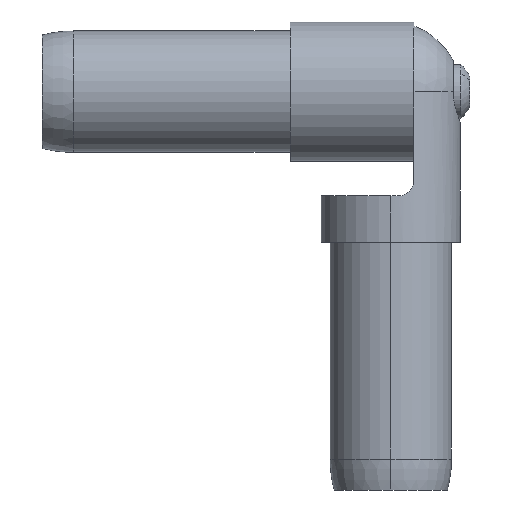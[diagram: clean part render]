
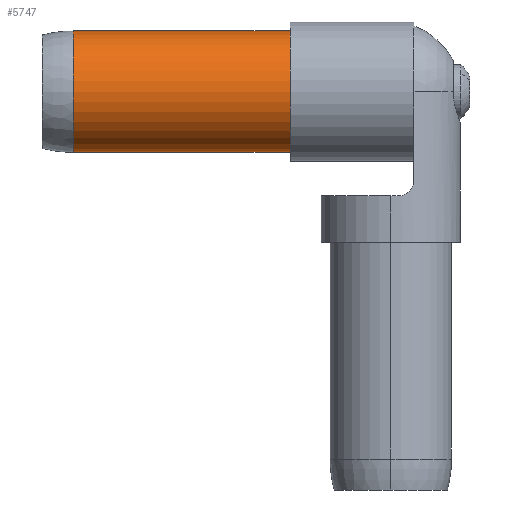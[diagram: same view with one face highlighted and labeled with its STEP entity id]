
A CAD part, front view. The second image highlights one B-rep face of the part: STEP entity #5747.
In plain terms, the highlighted cylindrical face has radius 12.446 mm (diameter 24.892 mm), a partial arc.
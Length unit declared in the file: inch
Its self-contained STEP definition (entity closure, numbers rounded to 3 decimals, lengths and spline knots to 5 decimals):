
#811 = CARTESIAN_POINT ( 'NONE',  ( -2.25, 0., 0. ) ) ;
#830 = EDGE_CURVE ( 'NONE', #13946, #8968, #4913, .T. ) ;
#949 = VERTEX_POINT ( 'NONE', #13241 ) ;
#1050 = VECTOR ( 'NONE', #10474, 39.37008 ) ;
#1188 = EDGE_LOOP ( 'NONE', ( #10237, #13859, #12593, #9070 ) ) ;
#1805 = VERTEX_POINT ( 'NONE', #12030 ) ;
#1986 = EDGE_CURVE ( 'NONE', #949, #8968, #12682, .T. ) ;
#2291 = VECTOR ( 'NONE', #7099, 39.37008 ) ;
#2576 = CARTESIAN_POINT ( 'NONE',  ( -2., 0., -0.49 ) ) ;
#3701 = FACE_OUTER_BOUND ( 'NONE', #1188, .T. ) ;
#3810 = DIRECTION ( 'NONE',  ( 0., 0., 1. ) ) ;
#4080 = AXIS2_PLACEMENT_3D ( 'NONE', #7397, #7142, #7291 ) ;
#4913 = CIRCLE ( 'NONE', #4080, 0.49 ) ;
#5438 = EDGE_CURVE ( 'NONE', #1805, #949, #8087, .T. ) ;
#5747 = ADVANCED_FACE ( 'NONE', ( #3701 ), #13504, .T. ) ;
#6671 = AXIS2_PLACEMENT_3D ( 'NONE', #811, #13654, #13198 ) ;
#7099 = DIRECTION ( 'NONE',  ( -1., 0., 0. ) ) ;
#7142 = DIRECTION ( 'NONE',  ( -1., 0., 0. ) ) ;
#7291 = DIRECTION ( 'NONE',  ( 0., 0., 1. ) ) ;
#7397 = CARTESIAN_POINT ( 'NONE',  ( -2., 0., 0. ) ) ;
#7690 = CARTESIAN_POINT ( 'NONE',  ( -2.25, 0., -0.49 ) ) ;
#7758 = CARTESIAN_POINT ( 'NONE',  ( -0.25, 0., 0. ) ) ;
#8087 = CIRCLE ( 'NONE', #10979, 0.49 ) ;
#8968 = VERTEX_POINT ( 'NONE', #11216 ) ;
#9070 = ORIENTED_EDGE ( 'NONE', *, *, #830, .F. ) ;
#9696 = EDGE_CURVE ( 'NONE', #1805, #13946, #11057, .T. ) ;
#10237 = ORIENTED_EDGE ( 'NONE', *, *, #9696, .F. ) ;
#10474 = DIRECTION ( 'NONE',  ( -1., 0., 0. ) ) ;
#10486 = CARTESIAN_POINT ( 'NONE',  ( -2.25, 0., 0.49 ) ) ;
#10979 = AXIS2_PLACEMENT_3D ( 'NONE', #7758, #12118, #3810 ) ;
#11057 = LINE ( 'NONE', #7690, #2291 ) ;
#11216 = CARTESIAN_POINT ( 'NONE',  ( -2., 0., 0.49 ) ) ;
#12030 = CARTESIAN_POINT ( 'NONE',  ( -0.25, 0., -0.49 ) ) ;
#12118 = DIRECTION ( 'NONE',  ( -1., 0., 0. ) ) ;
#12593 = ORIENTED_EDGE ( 'NONE', *, *, #1986, .T. ) ;
#12682 = LINE ( 'NONE', #10486, #1050 ) ;
#13198 = DIRECTION ( 'NONE',  ( 0., 0., 1. ) ) ;
#13241 = CARTESIAN_POINT ( 'NONE',  ( -0.25, 0., 0.49 ) ) ;
#13504 = CYLINDRICAL_SURFACE ( 'NONE', #6671, 0.49 ) ;
#13654 = DIRECTION ( 'NONE',  ( -1., 0., 0. ) ) ;
#13859 = ORIENTED_EDGE ( 'NONE', *, *, #5438, .T. ) ;
#13946 = VERTEX_POINT ( 'NONE', #2576 ) ;
